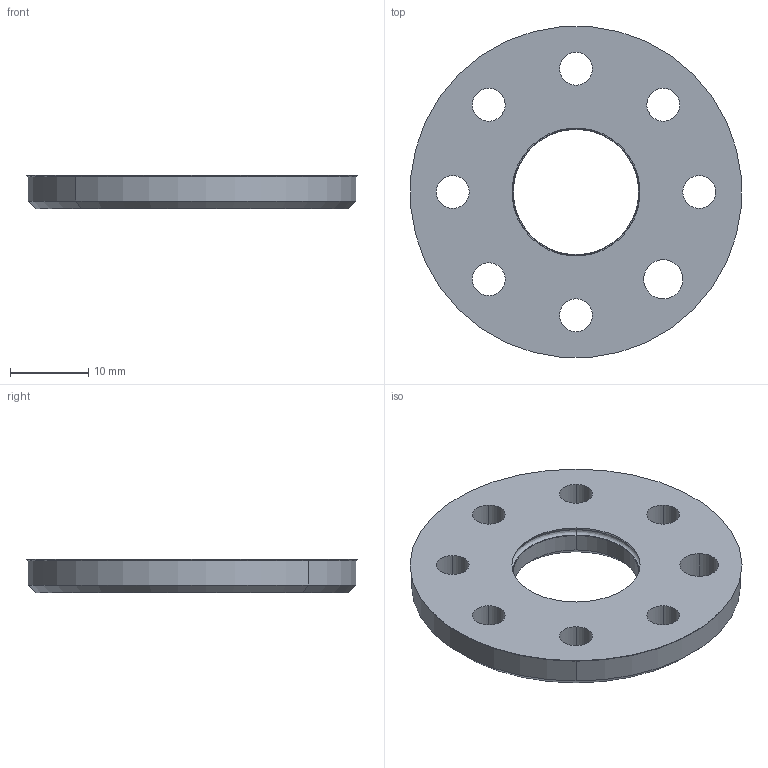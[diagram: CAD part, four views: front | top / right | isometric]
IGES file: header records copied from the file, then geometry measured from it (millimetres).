
Start section:  PTC IGES file: t_view_yr-n1-06vx7-c00.igs
Global section: file name: t_view_yr-n1-06vx7-c00.igs; native system: Creo Parametric by PTC Inc.; preprocessor: 2021072; author: mttm21; organization: Unknown; date: 20250919.181727; units: millimetre
Bounding box: 42.24 x 42.24 x 4.3 mm (x, y, z)
Volume: 4455.2 mm3; surface area: 3298.1 mm2
Topology: 1 solids, 1 shells, 49 faces, 116 edges, 70 vertices
Faces by surface type: revolution 46, bspline 3
